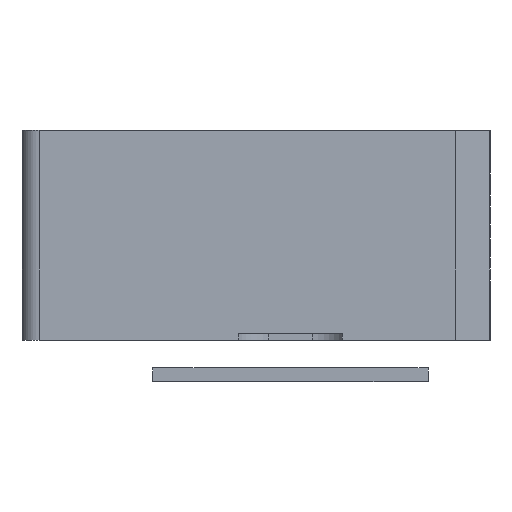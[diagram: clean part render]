
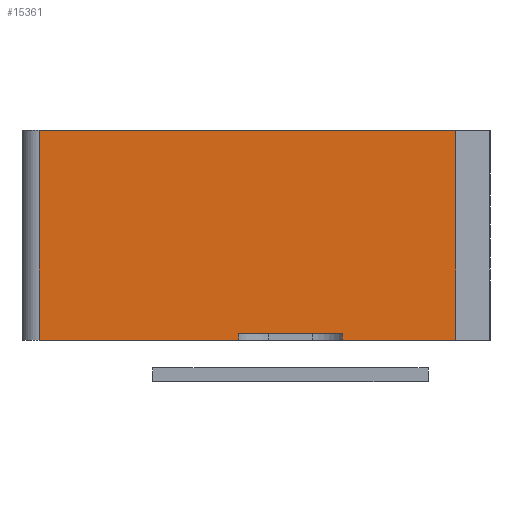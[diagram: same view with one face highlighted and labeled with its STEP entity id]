
A CAD part, left-side view. The second image highlights one B-rep face of the part: STEP entity #15361.
In plain terms, the highlighted planar face has unit normal (-1, 0, 0).
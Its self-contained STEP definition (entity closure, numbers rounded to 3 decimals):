
#78 = EDGE_CURVE ( 'NONE', #10529, #5769, #5487, .T. ) ;
#433 = ORIENTED_EDGE ( 'NONE', *, *, #3861, .F. ) ;
#476 = VERTEX_POINT ( 'NONE', #8356 ) ;
#583 = DIRECTION ( 'NONE',  ( 0., 0., 1. ) ) ;
#900 = CARTESIAN_POINT ( 'NONE',  ( -16., 27.713, 0. ) ) ;
#1562 = EDGE_CURVE ( 'NONE', #5439, #476, #16963, .T. ) ;
#1765 = CARTESIAN_POINT ( 'NONE',  ( -16., 24., 0. ) ) ;
#1766 = EDGE_CURVE ( 'NONE', #4871, #16005, #13677, .T. ) ;
#2058 = VECTOR ( 'NONE', #13105, 1000. ) ;
#2214 = LINE ( 'NONE', #16016, #12114 ) ;
#2907 = EDGE_CURVE ( 'NONE', #5439, #5376, #12634, .T. ) ;
#3436 = CARTESIAN_POINT ( 'NONE',  ( -16., 27.713, 6.1 ) ) ;
#3780 = VECTOR ( 'NONE', #7716, 1000. ) ;
#3781 = CARTESIAN_POINT ( 'NONE',  ( -16., 27.713, 0. ) ) ;
#3861 = EDGE_CURVE ( 'NONE', #4871, #5468, #8760, .T. ) ;
#4116 = EDGE_CURVE ( 'NONE', #5468, #10529, #6007, .T. ) ;
#4641 = ORIENTED_EDGE ( 'NONE', *, *, #1766, .T. ) ;
#4728 = DIRECTION ( 'NONE',  ( 0., 1., 0. ) ) ;
#4871 = VERTEX_POINT ( 'NONE', #15819 ) ;
#5141 = EDGE_CURVE ( 'NONE', #476, #5769, #13346, .T. ) ;
#5238 = DIRECTION ( 'NONE',  ( 0., -1., 0. ) ) ;
#5304 = DIRECTION ( 'NONE',  ( 0., 0., -1. ) ) ;
#5376 = VERTEX_POINT ( 'NONE', #8359 ) ;
#5439 = VERTEX_POINT ( 'NONE', #15951 ) ;
#5468 = VERTEX_POINT ( 'NONE', #7624 ) ;
#5487 = LINE ( 'NONE', #16556, #14449 ) ;
#5769 = VERTEX_POINT ( 'NONE', #1765 ) ;
#6007 = LINE ( 'NONE', #8648, #12806 ) ;
#6678 = VECTOR ( 'NONE', #5238, 1000. ) ;
#7011 = PLANE ( 'NONE',  #15022 ) ;
#7624 = CARTESIAN_POINT ( 'NONE',  ( -16., 21., 0.2 ) ) ;
#7716 = DIRECTION ( 'NONE',  ( 0., -1., 0. ) ) ;
#8252 = ORIENTED_EDGE ( 'NONE', *, *, #5141, .T. ) ;
#8356 = CARTESIAN_POINT ( 'NONE',  ( -16., 29.8, 0. ) ) ;
#8359 = CARTESIAN_POINT ( 'NONE',  ( -16., 17.7, 6.1 ) ) ;
#8365 = CARTESIAN_POINT ( 'NONE',  ( -16., 24., 0.2 ) ) ;
#8466 = DIRECTION ( 'NONE',  ( 0., 0., -1. ) ) ;
#8632 = DIRECTION ( 'NONE',  ( 1., 0., 0. ) ) ;
#8648 = CARTESIAN_POINT ( 'NONE',  ( -16., 27.713, 0.2 ) ) ;
#8760 = LINE ( 'NONE', #13197, #2058 ) ;
#9733 = CARTESIAN_POINT ( 'NONE',  ( -16., 27.713, 6.1 ) ) ;
#9811 = DIRECTION ( 'NONE',  ( 0., 0., -1. ) ) ;
#10529 = VERTEX_POINT ( 'NONE', #8365 ) ;
#10733 = ORIENTED_EDGE ( 'NONE', *, *, #4116, .F. ) ;
#10736 = ORIENTED_EDGE ( 'NONE', *, *, #78, .F. ) ;
#11166 = CARTESIAN_POINT ( 'NONE',  ( -16., 29.8, 6.1 ) ) ;
#11360 = FACE_OUTER_BOUND ( 'NONE', #15714, .T. ) ;
#12114 = VECTOR ( 'NONE', #583, 1000. ) ;
#12242 = VECTOR ( 'NONE', #17529, 1000. ) ;
#12634 = LINE ( 'NONE', #3436, #3780 ) ;
#12806 = VECTOR ( 'NONE', #4728, 1000. ) ;
#13105 = DIRECTION ( 'NONE',  ( 0., 0., 1. ) ) ;
#13197 = CARTESIAN_POINT ( 'NONE',  ( -16., 21., 6.1 ) ) ;
#13329 = VECTOR ( 'NONE', #9811, 1000. ) ;
#13346 = LINE ( 'NONE', #900, #12242 ) ;
#13677 = LINE ( 'NONE', #3781, #6678 ) ;
#13725 = EDGE_CURVE ( 'NONE', #16005, #5376, #2214, .T. ) ;
#14449 = VECTOR ( 'NONE', #5304, 1000. ) ;
#14564 = CARTESIAN_POINT ( 'NONE',  ( -16., 17.7, 0. ) ) ;
#15022 = AXIS2_PLACEMENT_3D ( 'NONE', #9733, #8632, #8466 ) ;
#15282 = ORIENTED_EDGE ( 'NONE', *, *, #1562, .T. ) ;
#15361 = ADVANCED_FACE ( 'NONE', ( #11360 ), #7011, .F. ) ;
#15714 = EDGE_LOOP ( 'NONE', ( #17914, #15282, #8252, #10736, #10733, #433, #4641, #16987 ) ) ;
#15819 = CARTESIAN_POINT ( 'NONE',  ( -16., 21., 0. ) ) ;
#15951 = CARTESIAN_POINT ( 'NONE',  ( -16., 29.8, 6.1 ) ) ;
#16005 = VERTEX_POINT ( 'NONE', #14564 ) ;
#16016 = CARTESIAN_POINT ( 'NONE',  ( -16., 17.7, 6.1 ) ) ;
#16556 = CARTESIAN_POINT ( 'NONE',  ( -16., 24., 6.1 ) ) ;
#16963 = LINE ( 'NONE', #11166, #13329 ) ;
#16987 = ORIENTED_EDGE ( 'NONE', *, *, #13725, .T. ) ;
#17529 = DIRECTION ( 'NONE',  ( 0., -1., 0. ) ) ;
#17914 = ORIENTED_EDGE ( 'NONE', *, *, #2907, .F. ) ;
